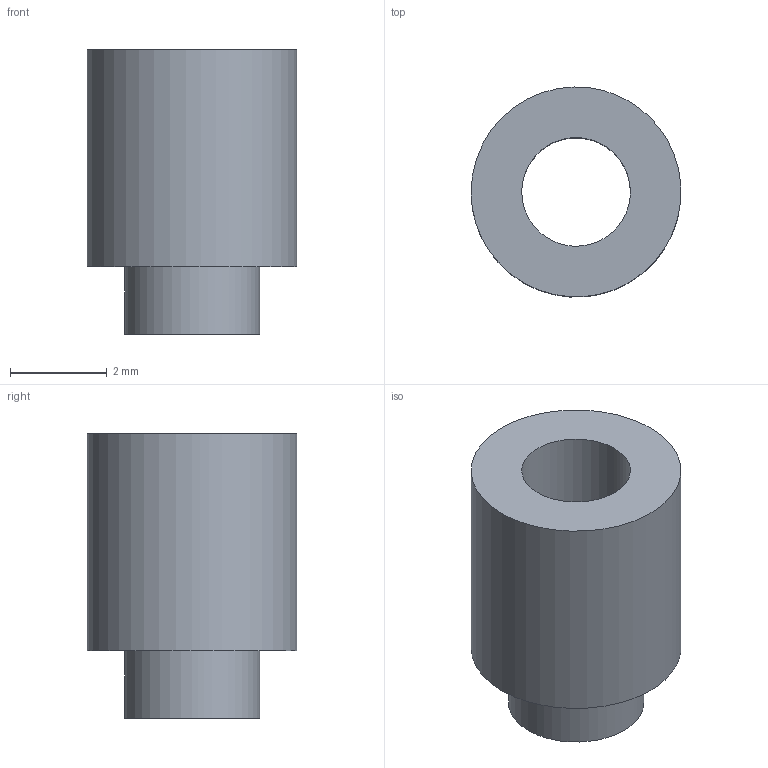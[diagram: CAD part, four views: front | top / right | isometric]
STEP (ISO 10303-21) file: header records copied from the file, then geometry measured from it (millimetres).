
FILE_DESCRIPTION(('FreeCAD Model'),'2;1');
FILE_NAME('Open CASCADE Shape Model','2026-03-20T17:23:13',('Author'),( ''),'Open CASCADE STEP processor 7.8','FreeCAD','Unknown');
FILE_SCHEMA(('AP242_MANAGED_MODEL_BASED_3D_ENGINEERING_MIM_LF. {1 0 10303 442 1 1 4 }'));
Length unit declared in the file: millimetre
Products named in the file (1): 1_transformed
Bounding box: 4.35 x 4.35 x 5.9 mm (x, y, z)
Volume: 52.5 mm3; surface area: 137.6 mm2
Topology: 1 solids, 1 shells, 6 faces, 9 edges, 6 vertices
Faces by surface type: bspline 6
Entity records: 201 total; most frequent: CARTESIAN_POINT 109, ORIENTED_EDGE 18, FACE_BOUND 9, EDGE_LOOP 9, EDGE_CURVE 9, ADVANCED_FACE 6, VERTEX_POINT 6, B_SPLINE_SURFACE_WITH_KNOTS 3
